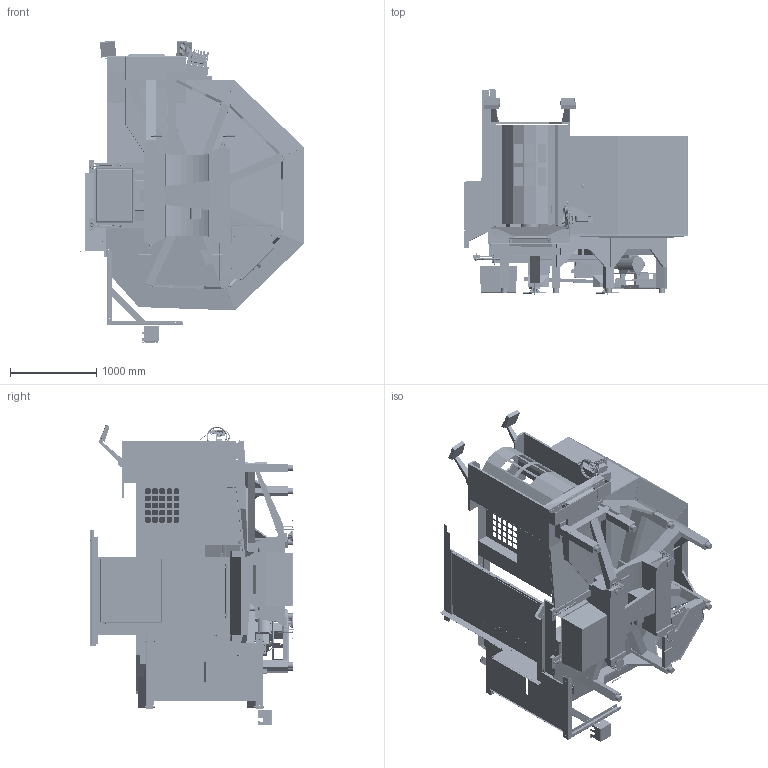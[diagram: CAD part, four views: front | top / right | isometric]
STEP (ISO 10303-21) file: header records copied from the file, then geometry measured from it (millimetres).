
FILE_DESCRIPTION (( 'STEP AP214' ), '1' );
FILE_NAME ('UMC-500-10_Pallet_Pool_STEP.STEP', '2021-10-12T22:14:06', ( '' ), ( '' ), 'SwSTEP 2.0', 'SolidWorks 2021', '' );
FILE_SCHEMA (( 'AUTOMOTIVE_DESIGN' ));
Length unit declared in the file: inch
Products named in the file (71): 10000119958UMC-500-10PP_1; 10000127757UMC-500-10PP_1; Default_defeature^Drip Pans_; 10000130768UMC-500-10PP_1; Walls_Default_defeature; 10000153635UMC-500-10PP_1; 10000035757UMC-500-10PP_1_Camel pump Lenz filter; 10000101386UMC-500-10PP_1; UMC-500-10_Pallet_Pool_STEP; 10000035580UMC-500-10PP_1; 10000156592UMC-500-10PP_1; 10000083678UMC-500-10PP_1; Leg Supports_Default_defeature; 10000095226UMC-500-10PP_1; 10000170864UMC-500-10PP_1; 10000068383UMC-500-10PP_1; 10000111551UMC-500-10PP_1_25-13736; Pallets__Default_defeature; 10000033370UMC-500-10PP_1; 10000125028UMC-500-10PP_1; Central Assemblies_2; Drip Pans__Default_defeature; Installation Kit; 10000107216UMC-500-10PP_1; 10000111551UMC-500-10PP_1_25-13735; 10000171029UMC-500-10PP_1; 10000102899UMC-500-10PP_1; 10000051542UMC-500-10PP_1_O1.65; 28-0145UMC-500-10PP_1; 10000083249UMC-500-10PP_1; 10000123910UMC-500-10PP_1_MIN. CLAMP HEIGHT; 10000144374UMC-500-10PP_1; 10000086330UMC-500-10PP_1; 10000130839UMC-500-10PP_1_Default<As Machined>; 10000117494UMC-500-10PP_1_HoleSlot; 10000131080UMC-500-10PP_1; 10000157169UMC-500-10PP_1; Default_defeature^Walls; 10000140284UMC-500-10PP_1_large basket; 10000130812UMC-500-10PP_1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
Assembly tree (88 placements, depth 5):
  UMC-500-10_Pallet_Pool_STEP
    Pallets__Default_defeature
      Default_defeature^Pallets_
    Installation Kit
      10000127759UMC-500-10PP_1
        10000127761UMC-500-10PP_1
        10000112744UMC-500-10PP_1
        10000127757UMC-500-10PP_1  x2
        10000113065UMC-500-10PP_1_2999T54  x2
        40-1823UMC-500-10PP_1  x4
        10000123910UMC-500-10PP_1_MIN. CLAMP HEIGHT  x4
          10000117494UMC-500-10PP_1_HoleSlot
          10000123909UMC-500-10PP_1
          10000123908UMC-500-10PP_1
          10000128468UMC-500-10PP_1
        10000086330UMC-500-10PP_1  x4
          10000083249UMC-500-10PP_1
          10000083678UMC-500-10PP_1
        10000140288UMC-500-10PP_1_As Installed
          28-0145UMC-500-10PP_1
          10000095226UMC-500-10PP_1
          10000140284UMC-500-10PP_1_large basket
          10000101386UMC-500-10PP_1
        10000102900UMC-500-10PP_1
          10000102899UMC-500-10PP_1
          59-0392AUMC-500-10PP_1
        10000133514UMC-500-10PP_1
    Attached Components_
      49-0003UMC-500-10PP_1  x4
      10000156592UMC-500-10PP_1  x2
      10000153635UMC-500-10PP_1  x2
      10000153747UMC-500-10PP_1  x2
      10000170864UMC-500-10PP_1
      10000171029UMC-500-10PP_1
      10000130812UMC-500-10PP_1
      10000125028UMC-500-10PP_1
      10000111551UMC-500-10PP_1_25-13735
      10000111551UMC-500-10PP_1_25-13736
      10000157169UMC-500-10PP_1
      10000119958UMC-500-10PP_1
      10000130839UMC-500-10PP_1_Default<As Machined>
      10000130768UMC-500-10PP_1
      10000109027UMC-500-10PP_1
      10000130770UMC-500-10PP_1
      28-0069UMC-500-10PP_1  x2
    Load Station__Default_defeature
      Default_defeature^Load Station_
    Central Assemblies_2
      Saddle Assembly_Default_defeature
        Default_defeature^Saddle Assembly
      Ram Assembly_Default_defeature
        Default_defeature^Ram Assembly
      Pallet Pool Base_Default_defeature
        Default_defeature^Pallet Pool Base
    HPU
      10000035757UMC-500-10PP_1_Camel pump Lenz filter
        10000035580UMC-500-10PP_1
        10000107216UMC-500-10PP_1
          10000107215UMC-500-10PP_1
          10000107214UMC-500-10PP_1
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Bounding box: 2593.53 x 2369.96 x 3498.15 mm (x, y, z)
Volume: 1422884112.3 mm3; surface area: 93297252.2 mm2
Topology: 948 solids, 948 shells, 19722 faces, 48446 edges, 30893 vertices
Faces by surface type: plane 10617, cylinder 6286, bspline 1521, cone 941, torus 268, sphere 89
Full cylindrical faces by diameter (mm): 3.175 x2
Entity records: 716108 total; most frequent: CARTESIAN_POINT 136631, ORIENTED_EDGE 88256, DIRECTION 88005, EDGE_CURVE 44128, AXIS2_PLACEMENT_3D 29764, LINE 28477, VECTOR 28477, VERTEX_POINT 28276
